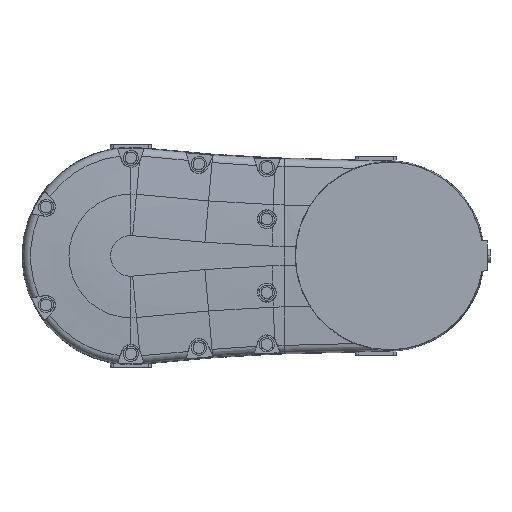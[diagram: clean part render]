
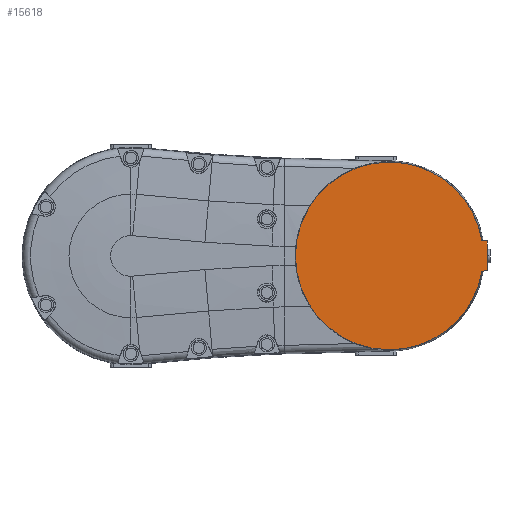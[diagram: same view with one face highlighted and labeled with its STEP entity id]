
A CAD part, top view. The second image highlights one B-rep face of the part: STEP entity #15618.
In plain terms, the highlighted planar face has unit normal (0, 0, 1).
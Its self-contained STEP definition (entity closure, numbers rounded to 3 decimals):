
#46 = CARTESIAN_POINT ( 'NONE',  ( 258.104, -11.115, 278.5 ) ) ;
#369 = CARTESIAN_POINT ( 'NONE',  ( 0., 0., 278.5 ) ) ;
#867 = VERTEX_POINT ( 'NONE', #5127 ) ;
#1153 = DIRECTION ( 'NONE',  ( 0., 0., 1. ) ) ;
#1314 = DIRECTION ( 'NONE',  ( 0., -1., 0. ) ) ;
#1420 = LINE ( 'NONE', #14918, #11005 ) ;
#1425 = CARTESIAN_POINT ( 'NONE',  ( 262., -11.013, 278.5 ) ) ;
#1631 = ORIENTED_EDGE ( 'NONE', *, *, #16714, .F. ) ;
#2312 = CARTESIAN_POINT ( 'NONE',  ( 190., 69.005, 278.5 ) ) ;
#2485 = CARTESIAN_POINT ( 'NONE',  ( 262., 11.013, 278.5 ) ) ;
#2911 = EDGE_CURVE ( 'NONE', #867, #10814, #10578, .T. ) ;
#3053 = CARTESIAN_POINT ( 'NONE',  ( 190., 0., 278.5 ) ) ;
#3466 = ORIENTED_EDGE ( 'NONE', *, *, #15892, .T. ) ;
#3602 = FACE_OUTER_BOUND ( 'NONE', #4868, .T. ) ;
#3786 = VERTEX_POINT ( 'NONE', #46 ) ;
#3808 = EDGE_CURVE ( 'NONE', #10814, #7555, #7476, .T. ) ;
#3985 = DIRECTION ( 'NONE',  ( 0., -1., 0. ) ) ;
#4012 = VECTOR ( 'NONE', #6064, 1000. ) ;
#4193 = DIRECTION ( 'NONE',  ( 0., 0., 1. ) ) ;
#4235 = CIRCLE ( 'NONE', #9401, 69.005 ) ;
#4286 = CARTESIAN_POINT ( 'NONE',  ( 190., 0., 278.5 ) ) ;
#4473 = CARTESIAN_POINT ( 'NONE',  ( 190., 0., 278.5 ) ) ;
#4868 = EDGE_LOOP ( 'NONE', ( #1631, #8823, #17478, #6475, #3466, #11591 ) ) ;
#5127 = CARTESIAN_POINT ( 'NONE',  ( 258.104, 11.115, 278.5 ) ) ;
#6064 = DIRECTION ( 'NONE',  ( 1., -0.026, 0. ) ) ;
#6475 = ORIENTED_EDGE ( 'NONE', *, *, #3808, .T. ) ;
#6757 = DIRECTION ( 'NONE',  ( 0., 0., 1. ) ) ;
#7189 = AXIS2_PLACEMENT_3D ( 'NONE', #4473, #13950, #8461 ) ;
#7251 = CARTESIAN_POINT ( 'NONE',  ( 190., -69.005, 278.5 ) ) ;
#7476 = CIRCLE ( 'NONE', #17043, 69.005 ) ;
#7502 = CARTESIAN_POINT ( 'NONE',  ( 262.5, 11., 278.5 ) ) ;
#7555 = VERTEX_POINT ( 'NONE', #7251 ) ;
#8289 = VERTEX_POINT ( 'NONE', #1425 ) ;
#8461 = DIRECTION ( 'NONE',  ( 0., -1., 0. ) ) ;
#8537 = PLANE ( 'NONE',  #15823 ) ;
#8711 = VECTOR ( 'NONE', #13212, 1000. ) ;
#8823 = ORIENTED_EDGE ( 'NONE', *, *, #10417, .F. ) ;
#8871 = EDGE_CURVE ( 'NONE', #3786, #8289, #9992, .T. ) ;
#9401 = AXIS2_PLACEMENT_3D ( 'NONE', #3053, #4193, #9888 ) ;
#9565 = VERTEX_POINT ( 'NONE', #2485 ) ;
#9888 = DIRECTION ( 'NONE',  ( 0., -1., 0. ) ) ;
#9992 = LINE ( 'NONE', #17507, #8711 ) ;
#10417 = EDGE_CURVE ( 'NONE', #867, #9565, #11235, .T. ) ;
#10578 = CIRCLE ( 'NONE', #7189, 69.005 ) ;
#10814 = VERTEX_POINT ( 'NONE', #2312 ) ;
#11005 = VECTOR ( 'NONE', #3985, 1000. ) ;
#11235 = LINE ( 'NONE', #7502, #4012 ) ;
#11591 = ORIENTED_EDGE ( 'NONE', *, *, #8871, .T. ) ;
#13212 = DIRECTION ( 'NONE',  ( 1., 0.026, 0. ) ) ;
#13213 = DIRECTION ( 'NONE',  ( 0., -1., 0. ) ) ;
#13950 = DIRECTION ( 'NONE',  ( 0., 0., 1. ) ) ;
#14918 = CARTESIAN_POINT ( 'NONE',  ( 262., 0., 278.5 ) ) ;
#15618 = ADVANCED_FACE ( 'NONE', ( #3602 ), #8537, .T. ) ;
#15823 = AXIS2_PLACEMENT_3D ( 'NONE', #369, #1153, #13213 ) ;
#15892 = EDGE_CURVE ( 'NONE', #7555, #3786, #4235, .T. ) ;
#16714 = EDGE_CURVE ( 'NONE', #9565, #8289, #1420, .T. ) ;
#17043 = AXIS2_PLACEMENT_3D ( 'NONE', #4286, #6757, #1314 ) ;
#17478 = ORIENTED_EDGE ( 'NONE', *, *, #2911, .T. ) ;
#17507 = CARTESIAN_POINT ( 'NONE',  ( 0.468, -17.862, 278.5 ) ) ;
